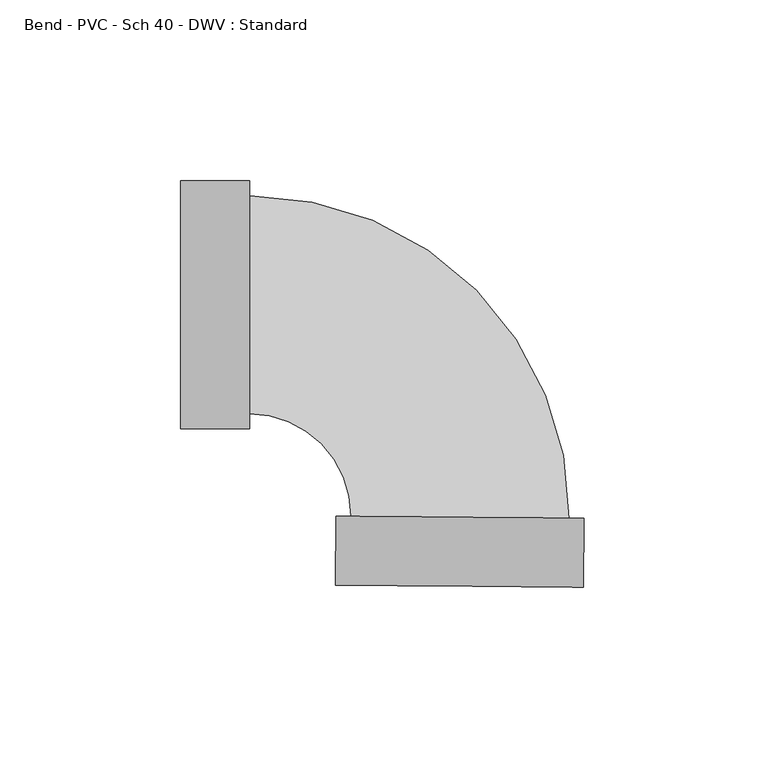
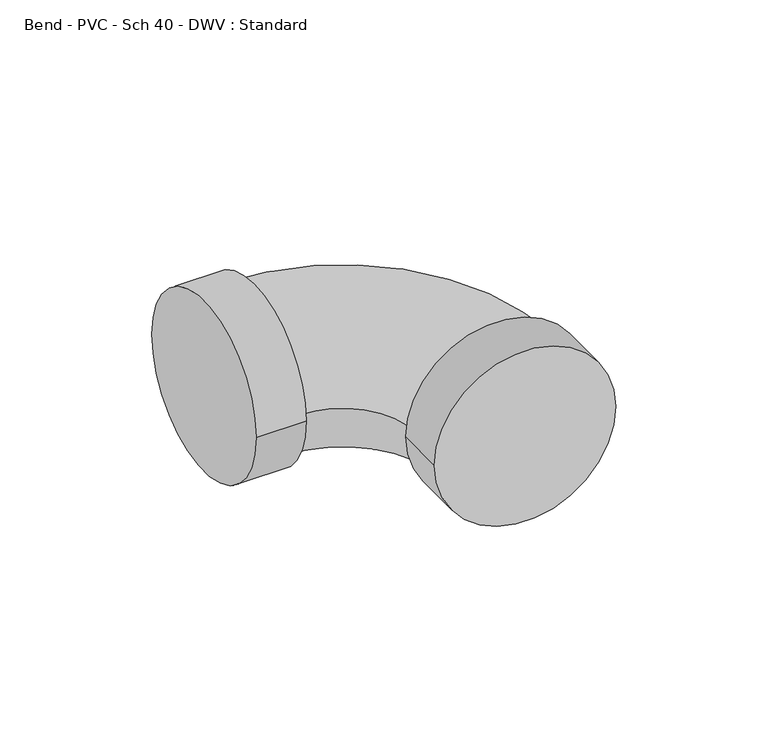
"""IFC4 building model written with IfcOpenShell, lengths in millimetres: pipe fitting geometry, Bend - PVC - Sch 40 - DWV : Standard."""

from ifc_helpers import new_model, si_unit, point, frame, origin, place, context, project, spatial, circle_curve, ellipse_curve, trimmed, source, transform, mapped, element, save
from ifc_brep_helpers import plane_surface, cylinder_surface, revolved_surface, advanced_brep


def bend_pvc_sch_40_dwv_standard_994c9b13(model_context):
    return source(origin(), model_context, "Body", "AdvancedBrep", [
        advanced_brep(
        [(-77.8002, 34.3154, 0.0), (-77.8002, -34.3154, 0.0), (-58.7502, 34.3154, 0.0), (-58.7502, -34.3154, 0.0), (-58.7502, 30.1625, 0.0), (-58.7502, -30.1625, 0.0), (-30.6690318, -58.4873738, 0.0), (29.653716, -59.0086395, 0.0), (33.806461, -59.0445245, 0.0), (-34.8217768, -58.4514888, 0.0), (33.6418508, -78.0938133, 0.0), (-34.986387, -77.5007776, 0.0)],
        [
            (0, 1, circle_curve(frame((-77.8002, 0.0, 0.0), z_axis=(-1.0, 0.0, 0.0), x_axis=(0.0, -1.0, 0.0)), 34.3154)),
            (1, 0, circle_curve(frame((-77.8002, 0.0, 0.0), z_axis=(-1.0, 0.0, 0.0), x_axis=(0.0, -1.0, 0.0)), 34.3154)),
            (2, 3, circle_curve(frame((-58.7502, 0.0, 0.0), z_axis=(1.0, 0.0, 0.0), x_axis=(0.0, -1.0, 0.0)), 34.3154)),
            (3, 2, circle_curve(frame((-58.7502, 0.0, 0.0), z_axis=(1.0, 0.0, 0.0), x_axis=(0.0, -1.0, 0.0)), 34.3154)),
            (4, 5, circle_curve(frame((-58.7502, 0.0, 0.0), z_axis=(-1.0, 0.0, 0.0), x_axis=(0.0, -1.0, 0.0)), 30.1625)),
            (5, 4, circle_curve(frame((-58.7502, 0.0, 0.0), z_axis=(-1.0, 0.0, 0.0), x_axis=(0.0, -1.0, 0.0)), 30.1625)),
            (1, 3),
            (2, 0),
            (6, 7, circle_curve(frame((-0.5076579, -58.7480066, 0.0), z_axis=(0.008640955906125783, 0.9999626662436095, 0.0), x_axis=(-0.9999626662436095, 0.008640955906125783, 0.0)), 30.1625)),
            (7, 4, circle_curve(frame((-58.7502, -58.2447166, 0.0), z_axis=(0.0, 0.0, 1.0), x_axis=(0.0, 1.0, 0.0)), 88.4072166)),
            (5, 6, circle_curve(frame((-58.7502, -58.2447166, 0.0), z_axis=(0.0, 0.0, -1.0), x_axis=(0.0, 1.0, 0.0)), 28.0822166)),
            (7, 6, circle_curve(frame((-0.5076579, -58.7480066, 0.0), z_axis=(0.008640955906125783, 0.9999626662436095, 0.0), x_axis=(-0.9999626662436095, 0.008640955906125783, 0.0)), 30.1625)),
            (8, 9, circle_curve(frame((-0.5076579, -58.7480066, 0.0), z_axis=(0.008640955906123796, 0.9999626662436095, 0.0), x_axis=(-0.9999626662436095, 0.008640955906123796, 0.0)), 34.3154)),
            (9, 8, circle_curve(frame((-0.5076579, -58.7480066, 0.0), z_axis=(0.008640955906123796, 0.9999626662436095, 0.0), x_axis=(-0.9999626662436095, 0.008640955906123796, 0.0)), 34.3154)),
            (10, 11, circle_curve(frame((-0.6722681, -77.7972954, 0.0), z_axis=(-0.008640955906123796, -0.9999626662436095, 0.0), x_axis=(-0.9999626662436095, 0.008640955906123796, 0.0)), 34.3154)),
            (11, 10, circle_curve(frame((-0.6722681, -77.7972954, 0.0), z_axis=(-0.008640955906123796, -0.9999626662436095, 0.0), x_axis=(-0.9999626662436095, 0.008640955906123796, 0.0)), 34.3154)),
            (9, 11),
            (10, 8),
        ],
        [
            plane_surface(frame((-77.8002, 0.0, 0.0), z_axis=(-1.0, 0.0, 0.0), x_axis=(0.0, 0.0, 1.0))),
            plane_surface(frame((-58.7502, 0.0, 0.0), z_axis=(1.0, 0.0, 0.0), x_axis=(0.0, 0.0, 1.0))),
            cylinder_surface(frame((-77.8002, 0.0, 0.0), z_axis=(-1.0, 0.0, 0.0), x_axis=(0.0, -1.0, 0.0)), 34.3154),
            revolved_surface(trimmed(ellipse_curve(frame((-58.7502, 0.0, 0.0), z_axis=(1.0, 0.0, 0.0), x_axis=(0.0, -1.0, 0.0)), 30.1625, 30.1625), [point((-58.7502, 30.1625, 0.0))], [point((-58.7502, -30.1625, 0.0))], True, "CARTESIAN"), (-58.7502, -58.2447166, 0.0), (0.0, 0.0, 1.0)),
            revolved_surface(trimmed(ellipse_curve(frame((-58.7502, 0.0, 0.0), z_axis=(1.0, 0.0, 0.0), x_axis=(0.0, -1.0, 0.0)), 30.1625, 30.1625), [point((-58.7502, -30.1625, 0.0))], [point((-58.7502, 30.1625, 0.0))], True, "CARTESIAN"), (-58.7502, -58.2447166, 0.0), (0.0, 0.0, 1.0)),
            plane_surface(frame((-0.5076579, -58.7480066, 0.0), z_axis=(0.008640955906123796, 0.9999626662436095, 0.0), x_axis=(0.0, 0.0, 1.0))),
            plane_surface(frame((-0.6722681, -77.7972954, 0.0), z_axis=(-0.008640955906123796, -0.9999626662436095, 0.0), x_axis=(0.0, 0.0, 1.0))),
            cylinder_surface(frame((-0.5076579, -58.7480066, 0.0), z_axis=(0.008640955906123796, 0.9999626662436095, 0.0), x_axis=(-0.9999626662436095, 0.008640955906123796, 0.0)), 34.3154),
        ],
        [
            (0, [[1, 2]]),
            (1, [[3, 4], [5, 6]]),
            (2, [[7, -3, 8, -2]]),
            (2, [[-8, -4, -7, -1]]),
            (3, [[9, 10, -6, 11]]),
            (4, [[-5, -10, 12, -11]]),
            (5, [[13, 14], [-12, -9]]),
            (6, [[15, 16]]),
            (7, [[17, -15, 18, -14]]),
            (7, [[-18, -16, -17, -13]]),
        ],
    ),
    ])


if __name__ == "__main__":
    model = new_model("IFC4")
    model_context = context("Model", 3, world=origin())
    ifc_project = project(units=[si_unit("LENGTHUNIT", "METRE", prefix="MILLI")], contexts=[model_context])
    site = spatial("IfcSite", under=ifc_project)
    building = spatial("IfcBuilding", under=site)
    placement = place(None, origin())
    bend_pvc_sch_40_dwv_standard_shape = bend_pvc_sch_40_dwv_standard_994c9b13(model_context)
    element("IfcPipeFitting", 1, ObjectType="Bend - PVC - Sch 40 - DWV : Standard", at=placement, inside=building, context=model_context, shape_type="MappedRepresentation", body=[
        mapped(bend_pvc_sch_40_dwv_standard_shape, transform((0.0, 0.0, 0.0), x_axis=(1.0, 0.0, 0.0), y_axis=(0.0, 1.0, 0.0), z_axis=(0.0, 0.0, 1.0))),
    ])
    save(model, "model.ifc")
